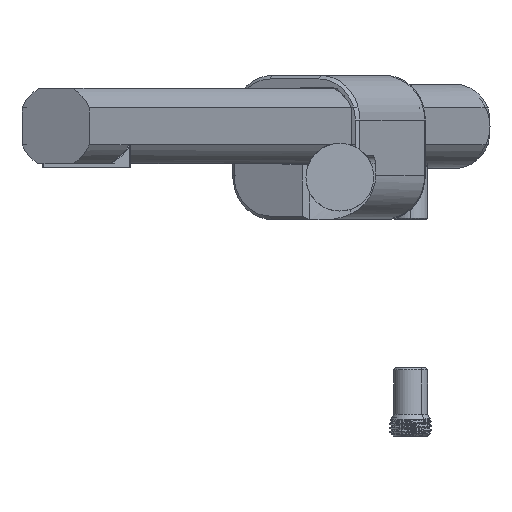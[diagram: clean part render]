
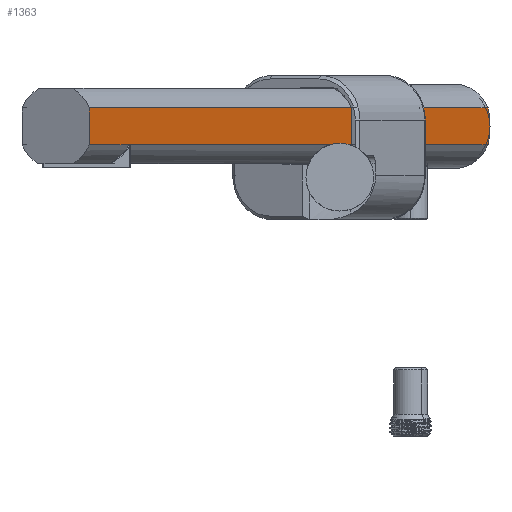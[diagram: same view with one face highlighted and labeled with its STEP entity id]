
A CAD part, front view. The second image highlights one B-rep face of the part: STEP entity #1363.
In plain terms, the highlighted planar face has unit normal (0.883, -0.469, 0) as drawn and (0, 0, 1) by its records, which use the part's own axes.
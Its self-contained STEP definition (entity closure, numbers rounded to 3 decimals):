
#32 = LINE ( 'NONE', #2172, #7733 ) ;
#66 = DIRECTION ( 'NONE',  ( -1., 0., 0. ) ) ;
#308 = DIRECTION ( 'NONE',  ( 1., 0., 0. ) ) ;
#498 = VERTEX_POINT ( 'NONE', #5810 ) ;
#545 = CARTESIAN_POINT ( 'NONE',  ( 4.359, -1., 9. ) ) ;
#665 = FACE_OUTER_BOUND ( 'NONE', #8026, .T. ) ;
#694 = ORIENTED_EDGE ( 'NONE', *, *, #1509, .F. ) ;
#964 = LINE ( 'NONE', #3819, #8926 ) ;
#1012 = CARTESIAN_POINT ( 'NONE',  ( 0.758, -0.024, 9. ) ) ;
#1175 = B_SPLINE_CURVE_WITH_KNOTS ( 'NONE', 3,
 ( #8933, #7403, #3121, #3075, #3170, #1012, #3824, #8189 ),
 .UNSPECIFIED., .F., .F.,
 ( 4, 2, 2, 4 ),
 ( 0., 0.002, 0.003, 0.004 ),
 .UNSPECIFIED. ) ;
#1256 = DIRECTION ( 'NONE',  ( -1., 0., 0. ) ) ;
#1363 = ADVANCED_FACE ( 'NONE', ( #665 ), #7750, .T. ) ;
#1368 = CARTESIAN_POINT ( 'NONE',  ( -4.359, -275., 9. ) ) ;
#1414 = EDGE_CURVE ( 'NONE', #6068, #6448, #3558, .T. ) ;
#1421 = CARTESIAN_POINT ( 'NONE',  ( 9.8, -180.856, 9. ) ) ;
#1509 = EDGE_CURVE ( 'NONE', #4434, #7237, #964, .T. ) ;
#1755 = LINE ( 'NONE', #8826, #4140 ) ;
#1927 = EDGE_CURVE ( 'NONE', #7237, #2235, #3767, .T. ) ;
#2089 = DIRECTION ( 'NONE',  ( 0., 1., 0. ) ) ;
#2172 = CARTESIAN_POINT ( 'NONE',  ( 4.359, -275., 9. ) ) ;
#2190 = ORIENTED_EDGE ( 'NONE', *, *, #4328, .T. ) ;
#2202 = DIRECTION ( 'NONE',  ( -1., 0., 0. ) ) ;
#2235 = VERTEX_POINT ( 'NONE', #9188 ) ;
#2365 = VECTOR ( 'NONE', #1256, 1000. ) ;
#2399 = VECTOR ( 'NONE', #6184, 1000. ) ;
#2414 = CARTESIAN_POINT ( 'NONE',  ( -2.952, -0.445, 9. ) ) ;
#2694 = LINE ( 'NONE', #4873, #2399 ) ;
#2938 = CARTESIAN_POINT ( 'NONE',  ( -4.359, -1., 9. ) ) ;
#3011 = EDGE_CURVE ( 'NONE', #498, #6448, #1755, .T. ) ;
#3075 = CARTESIAN_POINT ( 'NONE',  ( 1.874, -0.186, 9. ) ) ;
#3121 = CARTESIAN_POINT ( 'NONE',  ( 2.962, -0.449, 9. ) ) ;
#3170 = CARTESIAN_POINT ( 'NONE',  ( 1.506, -0.118, 9. ) ) ;
#3381 = ORIENTED_EDGE ( 'NONE', *, *, #7957, .F. ) ;
#3523 = DIRECTION ( 'NONE',  ( 0., 0., 1. ) ) ;
#3557 = CARTESIAN_POINT ( 'NONE',  ( 0., 0., 9. ) ) ;
#3558 = B_SPLINE_CURVE_WITH_KNOTS ( 'NONE', 3,
 ( #4372, #5996, #6605, #2414, #5108, #8692 ),
 .UNSPECIFIED., .F., .F.,
 ( 4, 2, 4 ),
 ( 0., 0.002, 0.004 ),
 .UNSPECIFIED. ) ;
#3767 = LINE ( 'NONE', #7206, #7443 ) ;
#3819 = CARTESIAN_POINT ( 'NONE',  ( 9.8, -181.422, 9. ) ) ;
#3824 = CARTESIAN_POINT ( 'NONE',  ( 0.379, 0., 9. ) ) ;
#3860 = EDGE_CURVE ( 'NONE', #4434, #8329, #5740, .T. ) ;
#3947 = ORIENTED_EDGE ( 'NONE', *, *, #3011, .F. ) ;
#4002 = DIRECTION ( 'NONE',  ( 0., 1., 0. ) ) ;
#4011 = LINE ( 'NONE', #6904, #2365 ) ;
#4129 = ORIENTED_EDGE ( 'NONE', *, *, #4883, .T. ) ;
#4140 = VECTOR ( 'NONE', #4002, 1000. ) ;
#4327 = AXIS2_PLACEMENT_3D ( 'NONE', #1368, #3523, #308 ) ;
#4328 = EDGE_CURVE ( 'NONE', #4854, #6068, #1175, .T. ) ;
#4372 = CARTESIAN_POINT ( 'NONE',  ( 0., 0., 9. ) ) ;
#4434 = VERTEX_POINT ( 'NONE', #5530 ) ;
#4735 = ORIENTED_EDGE ( 'NONE', *, *, #1414, .T. ) ;
#4854 = VERTEX_POINT ( 'NONE', #545 ) ;
#4873 = CARTESIAN_POINT ( 'NONE',  ( 4.359, -275., 9. ) ) ;
#4883 = EDGE_CURVE ( 'NONE', #6206, #2235, #2694, .T. ) ;
#5108 = CARTESIAN_POINT ( 'NONE',  ( -3.667, -0.698, 9. ) ) ;
#5530 = CARTESIAN_POINT ( 'NONE',  ( 9.8, -180.856, 9. ) ) ;
#5740 = LINE ( 'NONE', #1421, #6198 ) ;
#5810 = CARTESIAN_POINT ( 'NONE',  ( -4.359, -201.462, 9. ) ) ;
#5996 = CARTESIAN_POINT ( 'NONE',  ( -0.757, 0., 9. ) ) ;
#6068 = VERTEX_POINT ( 'NONE', #3557 ) ;
#6079 = ORIENTED_EDGE ( 'NONE', *, *, #1927, .F. ) ;
#6184 = DIRECTION ( 'NONE',  ( 0., 1., 0. ) ) ;
#6198 = VECTOR ( 'NONE', #2202, 1000. ) ;
#6206 = VERTEX_POINT ( 'NONE', #6489 ) ;
#6214 = ORIENTED_EDGE ( 'NONE', *, *, #8039, .T. ) ;
#6448 = VERTEX_POINT ( 'NONE', #2938 ) ;
#6489 = CARTESIAN_POINT ( 'NONE',  ( 4.359, -201.462, 9. ) ) ;
#6551 = ORIENTED_EDGE ( 'NONE', *, *, #3860, .T. ) ;
#6605 = CARTESIAN_POINT ( 'NONE',  ( -1.498, -0.096, 9. ) ) ;
#6904 = CARTESIAN_POINT ( 'NONE',  ( -4.359, -201.462, 9. ) ) ;
#7018 = CARTESIAN_POINT ( 'NONE',  ( 9.8, -181.422, 9. ) ) ;
#7206 = CARTESIAN_POINT ( 'NONE',  ( 9.8, -181.422, 9. ) ) ;
#7237 = VERTEX_POINT ( 'NONE', #7018 ) ;
#7403 = CARTESIAN_POINT ( 'NONE',  ( 3.668, -0.699, 9. ) ) ;
#7443 = VECTOR ( 'NONE', #66, 1000. ) ;
#7670 = CARTESIAN_POINT ( 'NONE',  ( 4.359, -180.856, 9. ) ) ;
#7733 = VECTOR ( 'NONE', #2089, 1000. ) ;
#7750 = PLANE ( 'NONE',  #4327 ) ;
#7957 = EDGE_CURVE ( 'NONE', #6206, #498, #4011, .T. ) ;
#8026 = EDGE_LOOP ( 'NONE', ( #3381, #4129, #6079, #694, #6551, #6214, #2190, #4735, #3947 ) ) ;
#8039 = EDGE_CURVE ( 'NONE', #8329, #4854, #32, .T. ) ;
#8086 = DIRECTION ( 'NONE',  ( 0., -1., 0. ) ) ;
#8189 = CARTESIAN_POINT ( 'NONE',  ( 0., 0., 9. ) ) ;
#8329 = VERTEX_POINT ( 'NONE', #7670 ) ;
#8692 = CARTESIAN_POINT ( 'NONE',  ( -4.359, -1., 9. ) ) ;
#8826 = CARTESIAN_POINT ( 'NONE',  ( -4.359, -275., 9. ) ) ;
#8926 = VECTOR ( 'NONE', #8086, 1000. ) ;
#8933 = CARTESIAN_POINT ( 'NONE',  ( 4.359, -1., 9. ) ) ;
#9188 = CARTESIAN_POINT ( 'NONE',  ( 4.359, -181.422, 9. ) ) ;
